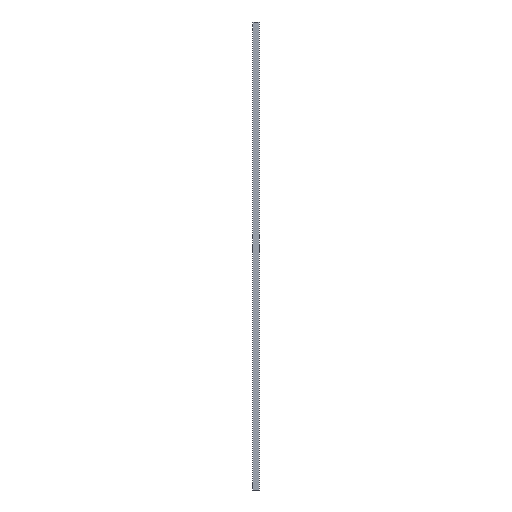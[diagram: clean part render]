
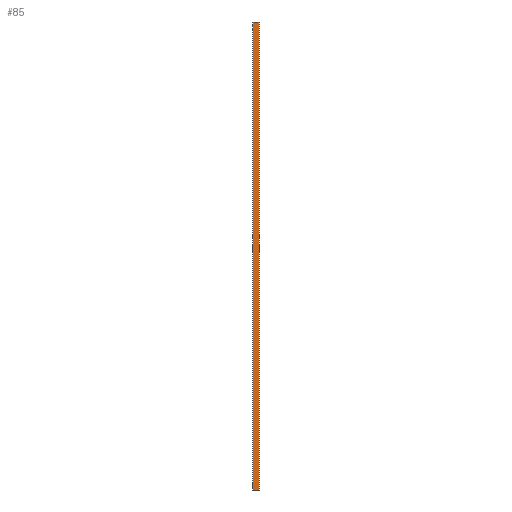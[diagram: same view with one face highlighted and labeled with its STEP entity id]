
A CAD part, left-side view. The second image highlights one B-rep face of the part: STEP entity #85.
In plain terms, the highlighted planar face has unit normal (-1, 0, 0).
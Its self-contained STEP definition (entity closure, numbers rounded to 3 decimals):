
#26 = ORIENTED_EDGE ( 'NONE', *, *, #36, .T. ) ;
#28 = LINE ( 'NONE', #218, #1223 ) ;
#36 = EDGE_CURVE ( 'NONE', #1059, #1008, #860, .T. ) ;
#37 = CARTESIAN_POINT ( 'NONE',  ( -8., 12.5, 879. ) ) ;
#71 = ORIENTED_EDGE ( 'NONE', *, *, #1324, .F. ) ;
#85 = ADVANCED_FACE ( 'NONE', ( #1211 ), #355, .T. ) ;
#86 = CARTESIAN_POINT ( 'NONE',  ( -8., 0., 0. ) ) ;
#88 = VERTEX_POINT ( 'NONE', #222 ) ;
#118 = EDGE_CURVE ( 'NONE', #1030, #348, #334, .T. ) ;
#128 = DIRECTION ( 'NONE',  ( 0., 1., 0. ) ) ;
#133 = DIRECTION ( 'NONE',  ( 0., 0., -1. ) ) ;
#143 = LINE ( 'NONE', #483, #423 ) ;
#153 = EDGE_CURVE ( 'NONE', #200, #929, #28, .T. ) ;
#162 = DIRECTION ( 'NONE',  ( 0., -1., 0. ) ) ;
#173 = EDGE_CURVE ( 'NONE', #459, #929, #349, .T. ) ;
#181 = ORIENTED_EDGE ( 'NONE', *, *, #667, .T. ) ;
#200 = VERTEX_POINT ( 'NONE', #37 ) ;
#218 = CARTESIAN_POINT ( 'NONE',  ( -8., 12.5, 879. ) ) ;
#222 = CARTESIAN_POINT ( 'NONE',  ( -8., 3.2, 0. ) ) ;
#242 = CARTESIAN_POINT ( 'NONE',  ( -8., 0., 879. ) ) ;
#278 = VECTOR ( 'NONE', #133, 1000. ) ;
#329 = CARTESIAN_POINT ( 'NONE',  ( -8., 0., 879. ) ) ;
#334 = LINE ( 'NONE', #329, #278 ) ;
#348 = VERTEX_POINT ( 'NONE', #613 ) ;
#349 = LINE ( 'NONE', #799, #1384 ) ;
#355 = PLANE ( 'NONE',  #809 ) ;
#404 = CARTESIAN_POINT ( 'NONE',  ( -8., 9.3, 0. ) ) ;
#419 = LINE ( 'NONE', #1318, #980 ) ;
#423 = VECTOR ( 'NONE', #1141, 1000. ) ;
#459 = VERTEX_POINT ( 'NONE', #404 ) ;
#471 = ORIENTED_EDGE ( 'NONE', *, *, #1376, .T. ) ;
#483 = CARTESIAN_POINT ( 'NONE',  ( -8., 0., 879. ) ) ;
#551 = DIRECTION ( 'NONE',  ( 0., 1., 0. ) ) ;
#603 = LINE ( 'NONE', #86, #1320 ) ;
#613 = CARTESIAN_POINT ( 'NONE',  ( -8., 0., 0. ) ) ;
#667 = EDGE_CURVE ( 'NONE', #1008, #200, #1220, .T. ) ;
#683 = DIRECTION ( 'NONE',  ( 0., 0., 1. ) ) ;
#752 = CARTESIAN_POINT ( 'NONE',  ( -8., 0., 879. ) ) ;
#760 = ORIENTED_EDGE ( 'NONE', *, *, #153, .T. ) ;
#769 = CARTESIAN_POINT ( 'NONE',  ( -8., 0., 879. ) ) ;
#799 = CARTESIAN_POINT ( 'NONE',  ( -8., 0., 0. ) ) ;
#809 = AXIS2_PLACEMENT_3D ( 'NONE', #242, #917, #683 ) ;
#860 = LINE ( 'NONE', #769, #1270 ) ;
#894 = DIRECTION ( 'NONE',  ( 0., 0., -1. ) ) ;
#917 = DIRECTION ( 'NONE',  ( -1., 0., 0. ) ) ;
#929 = VERTEX_POINT ( 'NONE', #1388 ) ;
#980 = VECTOR ( 'NONE', #1209, 1000. ) ;
#1008 = VERTEX_POINT ( 'NONE', #1060 ) ;
#1030 = VERTEX_POINT ( 'NONE', #752 ) ;
#1049 = EDGE_LOOP ( 'NONE', ( #1381, #471, #1281, #71, #26, #181, #760, #1167 ) ) ;
#1059 = VERTEX_POINT ( 'NONE', #1282 ) ;
#1060 = CARTESIAN_POINT ( 'NONE',  ( -8., 9.3, 879. ) ) ;
#1112 = CARTESIAN_POINT ( 'NONE',  ( -8., 12.5, 879. ) ) ;
#1141 = DIRECTION ( 'NONE',  ( 0., -1., 0. ) ) ;
#1152 = VECTOR ( 'NONE', #128, 1000. ) ;
#1167 = ORIENTED_EDGE ( 'NONE', *, *, #173, .F. ) ;
#1184 = EDGE_CURVE ( 'NONE', #88, #459, #419, .T. ) ;
#1209 = DIRECTION ( 'NONE',  ( 0., 1., 0. ) ) ;
#1211 = FACE_OUTER_BOUND ( 'NONE', #1049, .T. ) ;
#1220 = LINE ( 'NONE', #1112, #1152 ) ;
#1223 = VECTOR ( 'NONE', #894, 1000. ) ;
#1270 = VECTOR ( 'NONE', #1306, 1000. ) ;
#1281 = ORIENTED_EDGE ( 'NONE', *, *, #118, .F. ) ;
#1282 = CARTESIAN_POINT ( 'NONE',  ( -8., 3.2, 879. ) ) ;
#1306 = DIRECTION ( 'NONE',  ( 0., 1., 0. ) ) ;
#1318 = CARTESIAN_POINT ( 'NONE',  ( -8., 0., 0. ) ) ;
#1320 = VECTOR ( 'NONE', #162, 1000. ) ;
#1324 = EDGE_CURVE ( 'NONE', #1059, #1030, #143, .T. ) ;
#1376 = EDGE_CURVE ( 'NONE', #88, #348, #603, .T. ) ;
#1381 = ORIENTED_EDGE ( 'NONE', *, *, #1184, .F. ) ;
#1384 = VECTOR ( 'NONE', #551, 1000. ) ;
#1388 = CARTESIAN_POINT ( 'NONE',  ( -8., 12.5, 0. ) ) ;
